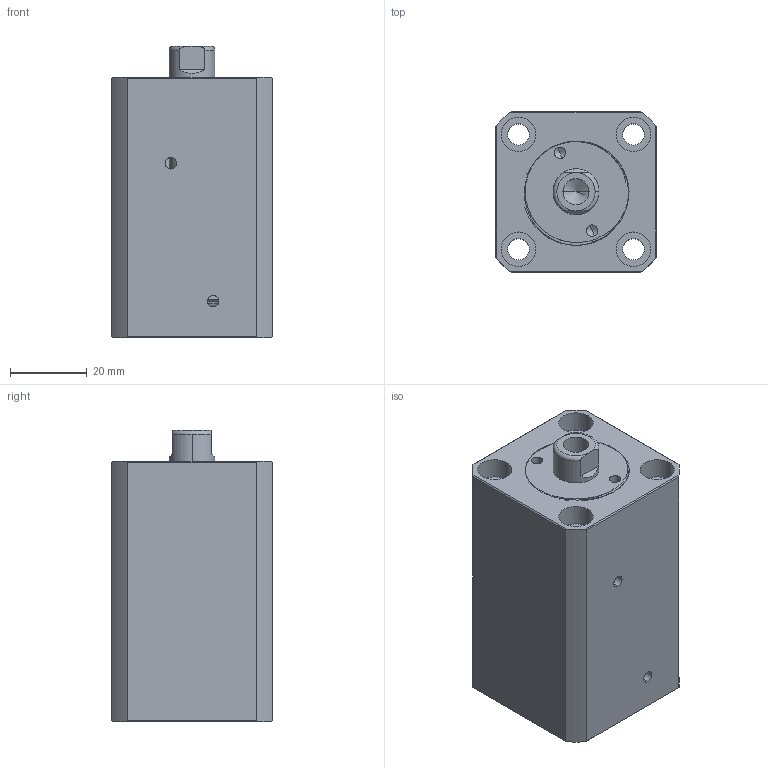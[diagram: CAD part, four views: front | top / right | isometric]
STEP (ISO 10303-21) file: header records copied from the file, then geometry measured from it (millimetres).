
FILE_DESCRIPTION (( 'STEP AP214' ), '1' );
FILE_NAME ('chtb-sdmb20x25n_asm.STEP', '2018-05-18T08:26:32', ( 'Windows' ), ( 'Microsoft' ), 'SwSTEP 2.0', 'SolidWorks 2015', '' );
FILE_SCHEMA (( 'AUTOMOTIVE_DESIGN' ));
Length unit declared in the file: millimetre
Products named in the file (4): QG_3; CHTB-SDMB20X25NHSG; CHTB-SDMB20X25NBT; chtb-sdmb20x25n_asm
Assembly tree (3 placements, depth 2):
  chtb-sdmb20x25n_asm
    CHTB-SDMB20X25NBT
    CHTB-SDMB20X25NHSG
    QG_3
Bounding box: 42 x 42 x 76 mm (x, y, z)
Volume: 102815.3 mm3; surface area: 32771 mm2
Topology: 3 solids, 3 shells, 201 faces, 535 edges, 354 vertices
Faces by surface type: cylinder 106, plane 43, torus 25, bspline 21, cone 6
Entity records: 11558 total; most frequent: CARTESIAN_POINT 6663, ORIENTED_EDGE 1058, DIRECTION 922, EDGE_CURVE 529, AXIS2_PLACEMENT_3D 388, VERTEX_POINT 354, EDGE_LOOP 239, CIRCLE 202
